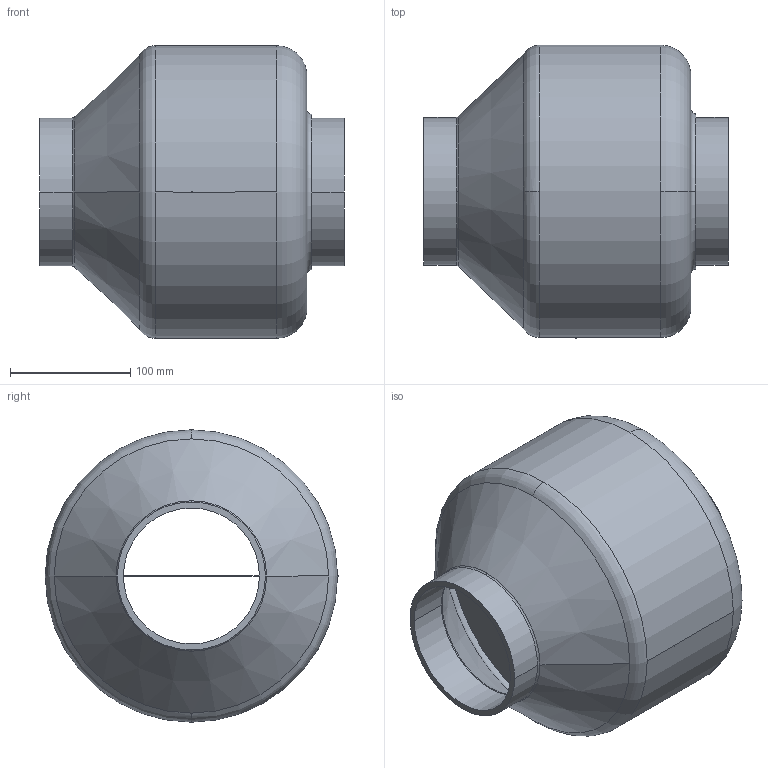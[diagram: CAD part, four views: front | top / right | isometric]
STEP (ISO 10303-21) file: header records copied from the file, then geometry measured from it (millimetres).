
FILE_DESCRIPTION(('STEP AP214'),'1');
FILE_NAME('5145880100.stp','2019-05-13T14:54:53',('TraceParts'),('TraceParts S.A.'),'Spatial InterOp 3D',' ',' ');
FILE_SCHEMA(('AUTOMOTIVE_DESIGN { 1 0 10303 214 1 1 1 1 }'));
Length unit declared in the file: millimetre
Products named in the file (1): 5145880100
Bounding box: 253 x 244 x 243 mm (x, y, z)
Volume: 1628369.2 mm3; surface area: 614958.1 mm2
Topology: 1 solids, 1 shells, 107 faces, 298 edges, 199 vertices
Faces by surface type: plane 59, cylinder 28, torus 16, cone 4
Entity records: 4589 total; most frequent: CARTESIAN_POINT 806, DIRECTION 615, ORIENTED_EDGE 596, EDGE_CURVE 298, AXIS2_PLACEMENT_3D 218, VERTEX_POINT 199, LINE 179, VECTOR 179
